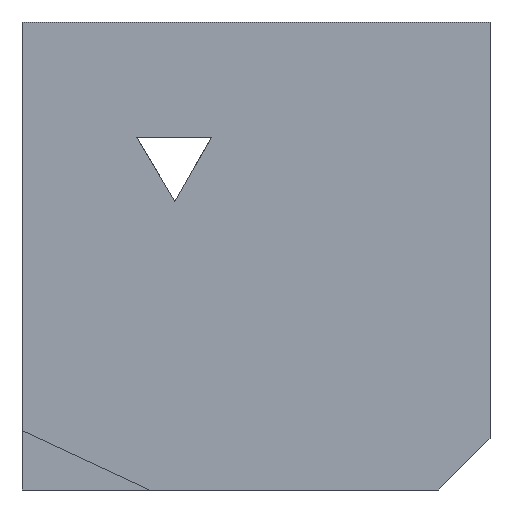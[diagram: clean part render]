
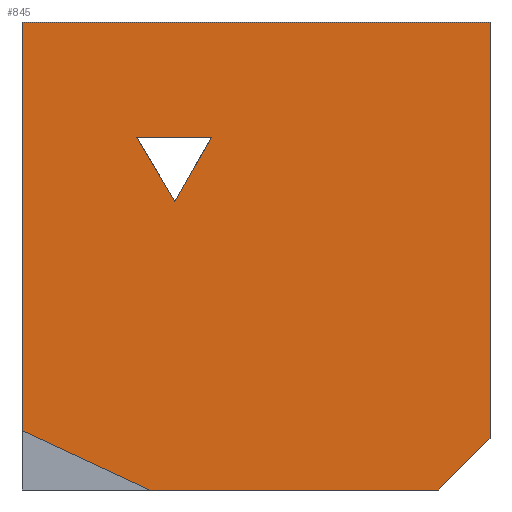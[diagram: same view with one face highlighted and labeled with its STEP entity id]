
A CAD part, front view. The second image highlights one B-rep face of the part: STEP entity #845.
In plain terms, the highlighted planar face has unit normal (0, -1, 0).
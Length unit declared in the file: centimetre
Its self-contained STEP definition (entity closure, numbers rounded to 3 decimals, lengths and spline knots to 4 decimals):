
#48 = EDGE_CURVE ( 'NONE', #615, #718, #172, .T. ) ;
#49 = FACE_OUTER_BOUND ( 'NONE', #135, .T. ) ;
#78 = CARTESIAN_POINT ( 'NONE',  ( 404.8822, 0., 753.5497 ) ) ;
#79 = LINE ( 'NONE', #700, #197 ) ;
#81 = EDGE_CURVE ( 'NONE', #718, #537, #662, .T. ) ;
#113 = VERTEX_POINT ( 'NONE', #617 ) ;
#117 = LINE ( 'NONE', #936, #699 ) ;
#118 = ORIENTED_EDGE ( 'NONE', *, *, #937, .F. ) ;
#135 = EDGE_LOOP ( 'NONE', ( #414, #118, #582, #1016, #603, #234 ) ) ;
#145 = VERTEX_POINT ( 'NONE', #563 ) ;
#172 = LINE ( 'NONE', #78, #454 ) ;
#197 = VECTOR ( 'NONE', #970, 100. ) ;
#199 = VECTOR ( 'NONE', #547, 100. ) ;
#228 = VERTEX_POINT ( 'NONE', #859 ) ;
#234 = ORIENTED_EDGE ( 'NONE', *, *, #371, .F. ) ;
#242 = DIRECTION ( 'NONE',  ( -1., 0., 0. ) ) ;
#278 = DIRECTION ( 'NONE',  ( 0.496, 0., 0.868 ) ) ;
#282 = DIRECTION ( 'NONE',  ( -0.907, 0., 0.422 ) ) ;
#300 = VECTOR ( 'NONE', #278, 100. ) ;
#305 = EDGE_CURVE ( 'NONE', #113, #482, #117, .T. ) ;
#312 = DIRECTION ( 'NONE',  ( 1., 0., 0. ) ) ;
#324 = VECTOR ( 'NONE', #282, 100. ) ;
#367 = CARTESIAN_POINT ( 'NONE',  ( 245.4001, 0., 753.5497 ) ) ;
#371 = EDGE_CURVE ( 'NONE', #113, #678, #583, .T. ) ;
#387 = DIRECTION ( 'NONE',  ( 0., 0., 1. ) ) ;
#402 = LINE ( 'NONE', #740, #804 ) ;
#414 = ORIENTED_EDGE ( 'NONE', *, *, #305, .T. ) ;
#415 = CARTESIAN_POINT ( 'NONE',  ( 0., 0., 1000. ) ) ;
#443 = CARTESIAN_POINT ( 'NONE',  ( 0., 0., 126.8107 ) ) ;
#454 = VECTOR ( 'NONE', #242, 100. ) ;
#482 = VERTEX_POINT ( 'NONE', #443 ) ;
#486 = PLANE ( 'NONE',  #602 ) ;
#511 = DIRECTION ( 'NONE',  ( 0.508, 0., -0.861 ) ) ;
#516 = EDGE_CURVE ( 'NONE', #678, #145, #79, .T. ) ;
#526 = LINE ( 'NONE', #976, #324 ) ;
#537 = VERTEX_POINT ( 'NONE', #870 ) ;
#541 = EDGE_CURVE ( 'NONE', #537, #615, #965, .T. ) ;
#544 = LINE ( 'NONE', #810, #199 ) ;
#547 = DIRECTION ( 'NONE',  ( 0.707, 0., 0.707 ) ) ;
#563 = CARTESIAN_POINT ( 'NONE',  ( 1000., 0., 111.0296 ) ) ;
#571 = CARTESIAN_POINT ( 'NONE',  ( 245.4001, 0., 753.5497 ) ) ;
#582 = ORIENTED_EDGE ( 'NONE', *, *, #762, .T. ) ;
#583 = LINE ( 'NONE', #1080, #730 ) ;
#588 = VECTOR ( 'NONE', #511, 100. ) ;
#600 = VERTEX_POINT ( 'NONE', #878 ) ;
#602 = AXIS2_PLACEMENT_3D ( 'NONE', #415, #1105, #387 ) ;
#603 = ORIENTED_EDGE ( 'NONE', *, *, #516, .F. ) ;
#615 = VERTEX_POINT ( 'NONE', #1066 ) ;
#617 = CARTESIAN_POINT ( 'NONE',  ( 0., 0., 1000. ) ) ;
#662 = LINE ( 'NONE', #571, #588 ) ;
#678 = VERTEX_POINT ( 'NONE', #738 ) ;
#699 = VECTOR ( 'NONE', #1099, 100. ) ;
#700 = CARTESIAN_POINT ( 'NONE',  ( 1000., 0., 1000. ) ) ;
#718 = VERTEX_POINT ( 'NONE', #367 ) ;
#725 = EDGE_CURVE ( 'NONE', #600, #145, #544, .T. ) ;
#730 = VECTOR ( 'NONE', #944, 100. ) ;
#735 = EDGE_LOOP ( 'NONE', ( #829, #1009, #998 ) ) ;
#738 = CARTESIAN_POINT ( 'NONE',  ( 1000., 0., 1000. ) ) ;
#740 = CARTESIAN_POINT ( 'NONE',  ( 0., 0., 0. ) ) ;
#762 = EDGE_CURVE ( 'NONE', #228, #600, #402, .T. ) ;
#804 = VECTOR ( 'NONE', #312, 100. ) ;
#810 = CARTESIAN_POINT ( 'NONE',  ( 1000., 0., 111.0296 ) ) ;
#829 = ORIENTED_EDGE ( 'NONE', *, *, #81, .F. ) ;
#845 = ADVANCED_FACE ( 'NONE', ( #853, #49 ), #486, .F. ) ;
#853 = FACE_BOUND ( 'NONE', #735, .T. ) ;
#859 = CARTESIAN_POINT ( 'NONE',  ( 272.7304, 0., 0. ) ) ;
#870 = CARTESIAN_POINT ( 'NONE',  ( 326.4612, 0., 616.1963 ) ) ;
#878 = CARTESIAN_POINT ( 'NONE',  ( 888.9704, 0., 0. ) ) ;
#936 = CARTESIAN_POINT ( 'NONE',  ( 0., 0., 1000. ) ) ;
#937 = EDGE_CURVE ( 'NONE', #228, #482, #526, .T. ) ;
#944 = DIRECTION ( 'NONE',  ( 1., 0., 0. ) ) ;
#965 = LINE ( 'NONE', #975, #300 ) ;
#970 = DIRECTION ( 'NONE',  ( 0., 0., -1. ) ) ;
#975 = CARTESIAN_POINT ( 'NONE',  ( 326.4612, 0., 616.1963 ) ) ;
#976 = CARTESIAN_POINT ( 'NONE',  ( 0., 0., 126.8107 ) ) ;
#998 = ORIENTED_EDGE ( 'NONE', *, *, #541, .F. ) ;
#1009 = ORIENTED_EDGE ( 'NONE', *, *, #48, .F. ) ;
#1016 = ORIENTED_EDGE ( 'NONE', *, *, #725, .T. ) ;
#1066 = CARTESIAN_POINT ( 'NONE',  ( 404.8822, 0., 753.5497 ) ) ;
#1080 = CARTESIAN_POINT ( 'NONE',  ( 0., 0., 1000. ) ) ;
#1099 = DIRECTION ( 'NONE',  ( 0., 0., -1. ) ) ;
#1105 = DIRECTION ( 'NONE',  ( 0., 1., 0. ) ) ;
